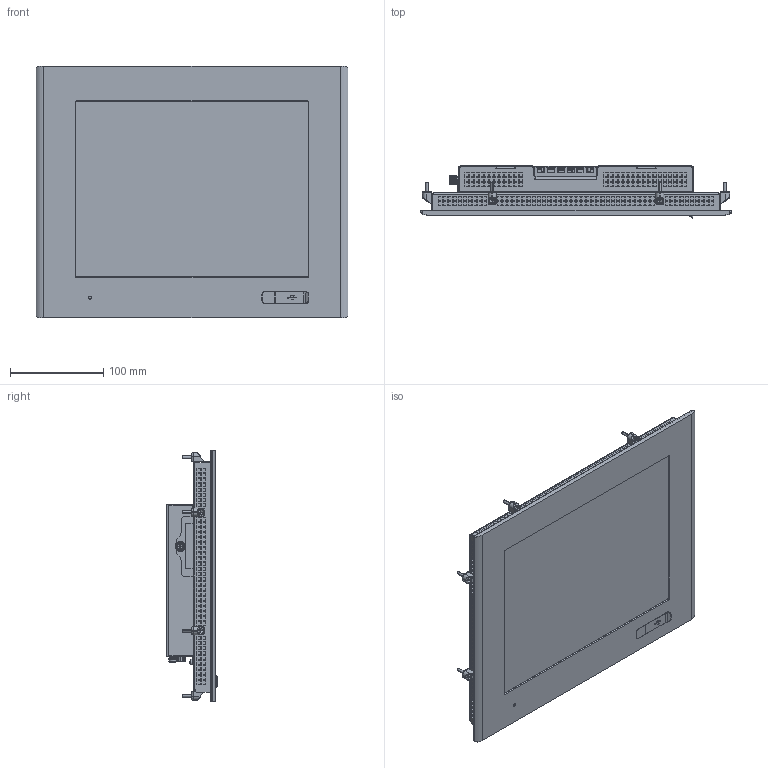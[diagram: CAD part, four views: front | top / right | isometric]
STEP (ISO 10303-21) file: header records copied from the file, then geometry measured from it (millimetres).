
FILE_DESCRIPTION((''),'2;1');
FILE_NAME('C6E22-Panel_121_RES_SL','2017-02-23T',('manpal'),(''),'PRO/ENGINEER BY PARAMETRIC TECHNOLOGY CORPORATION, 2013410','PRO/ENGINEER BY PARAMETRIC TECHNOLOGY CORPORATION, 2013410','');
FILE_SCHEMA(('AUTOMOTIVE_DESIGN { 1 0 10303 214 1 1 1 1 }'));
Products named in the file (1): C6E22-Panel_121_RES_SL_
Bounding box: 335 x 55.54 x 270 mm (x, y, z)
Surface area: 408575 mm2 (no closed solid volume)
Topology: 0 solids, 219 shells, 4214 faces, 16878 edges, 12725 vertices
Faces by surface type: plane 3574, cylinder 426, cone 96, bspline 67, sphere 25, torus 24, extrusion 2
Entity records: 191924 total; most frequent: CARTESIAN_POINT 42851, DIRECTION 26214, ORIENTED_EDGE 24651, EDGE_CURVE 16851, VECTOR 14194, LINE 14192, VERTEX_POINT 12725, AXIS2_PLACEMENT_3D 6010
